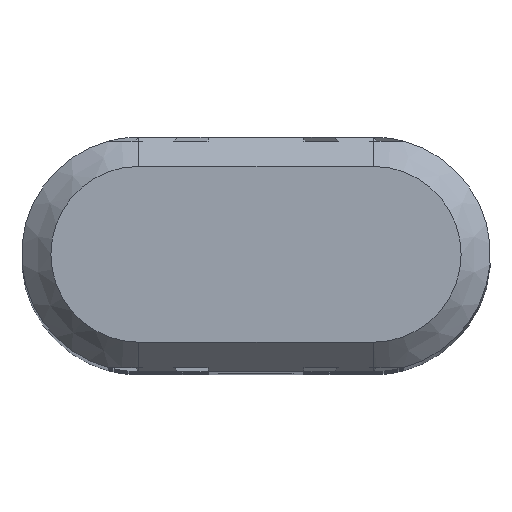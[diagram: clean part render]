
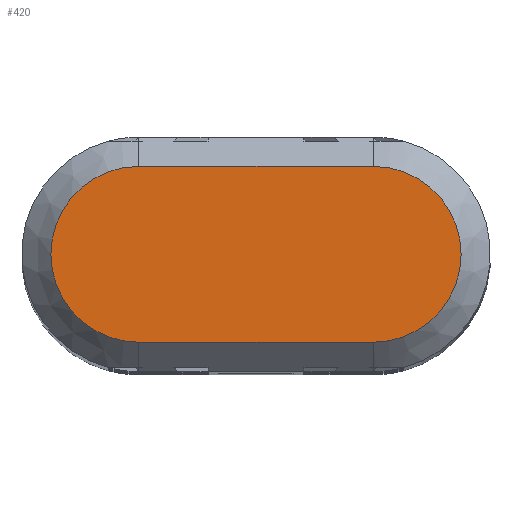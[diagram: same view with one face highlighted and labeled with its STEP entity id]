
A CAD part, top view. The second image highlights one B-rep face of the part: STEP entity #420.
In plain terms, the highlighted planar face has unit normal (0, 0, 1).
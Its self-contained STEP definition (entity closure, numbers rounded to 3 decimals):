
#10=CARTESIAN_POINT('',(13.869,4.044,
-3.));
#20=DIRECTION('',(0.,0.,1.));
#30=DIRECTION('',(1.,0.,0.));
#40=AXIS2_PLACEMENT_3D('',#10,#20,#30);
#50=PLANE('',#40);
#60=CARTESIAN_POINT('',(13.869,8.544,
-3.));
#70=DIRECTION('',(-1.,0.,0.));
#80=VECTOR('',#70,1.);
#90=LINE('',#60,#80);
#100=CARTESIAN_POINT('',(19.869,8.544,
-3.));
#110=VERTEX_POINT('',#100);
#120=CARTESIAN_POINT('',(7.869,8.544,
-3.));
#130=VERTEX_POINT('',#120);
#140=EDGE_CURVE('',#110,#130,#90,.T.);
#150=ORIENTED_EDGE('',*,*,#140,.T.);
#160=CARTESIAN_POINT('',(19.869,4.044,
-3.));
#170=DIRECTION('',(0.,0.,1.));
#180=DIRECTION('',(1.,0.,0.));
#190=AXIS2_PLACEMENT_3D('',#160,#170,#180);
#200=CIRCLE('',#190,4.5);
#210=CARTESIAN_POINT('',(19.869,-0.456,
-3.));
#220=VERTEX_POINT('',#210);
#230=EDGE_CURVE('',#220,#110,#200,.T.);
#240=ORIENTED_EDGE('',*,*,#230,.T.);
#250=CARTESIAN_POINT('',(13.869,-0.456,
-3.));
#260=DIRECTION('',(1.,0.,0.));
#270=VECTOR('',#260,1.);
#280=LINE('',#250,#270);
#290=CARTESIAN_POINT('',(7.869,-0.456,
-3.));
#300=VERTEX_POINT('',#290);
#310=EDGE_CURVE('',#300,#220,#280,.T.);
#320=ORIENTED_EDGE('',*,*,#310,.T.);
#330=CARTESIAN_POINT('',(7.869,4.044,
-3.));
#340=DIRECTION('',(0.,0.,1.));
#350=DIRECTION('',(1.,0.,0.));
#360=AXIS2_PLACEMENT_3D('',#330,#340,#350);
#370=CIRCLE('',#360,4.5);
#380=EDGE_CURVE('',#130,#300,#370,.T.);
#390=ORIENTED_EDGE('',*,*,#380,.T.);
#400=EDGE_LOOP('',(#390,#320,#240,#150));
#410=FACE_OUTER_BOUND('',#400,.T.);
#420=ADVANCED_FACE('',(#410),#50,.T.);
